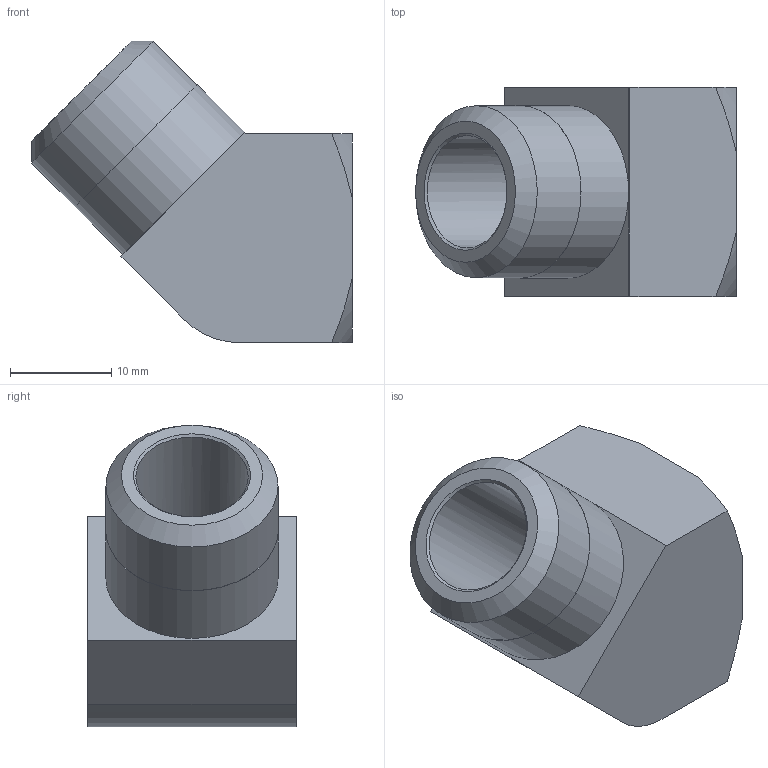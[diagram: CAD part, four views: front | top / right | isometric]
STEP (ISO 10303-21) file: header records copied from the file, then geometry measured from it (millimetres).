
FILE_DESCRIPTION(/* description */ (''),/* implementation_level */ '2;1');
FILE_NAME(/* name */ 'C:/Users/drich/Desktop/AL-38 v1.step',/* time_stamp */ '2020-02-09T11:04:42-06:00',/* author */ (''),/* organization */ (''),/* preprocessor_version */ 'ST-DEVELOPER v18',/* originating_system */ 'Autodesk Translation Framework v8.12.0.6',/* authorisation */ '');
FILE_SCHEMA (('AUTOMOTIVE_DESIGN { 1 0 10303 214 3 1 1 }'));
Length unit declared in the file: inch
Products named in the file (1): AL-38
Bounding box: 31.68 x 20.62 x 29.75 mm (x, y, z)
Volume: 6494.7 mm3; surface area: 3935.7 mm2
Topology: 1 solids, 1 shells, 30 faces, 82 edges, 54 vertices
Faces by surface type: plane 13, cone 9, cylinder 8
Full cylindrical faces by diameter (mm): 11.1 x1, 14.275 x1, 14.3 x1, 16.993 x1, 17.018 x1
Entity records: 1007 total; most frequent: CARTESIAN_POINT 222, DIRECTION 158, ORIENTED_EDGE 156, EDGE_CURVE 78, AXIS2_PLACEMENT_3D 61, VERTEX_POINT 52, LINE 36, VECTOR 36
